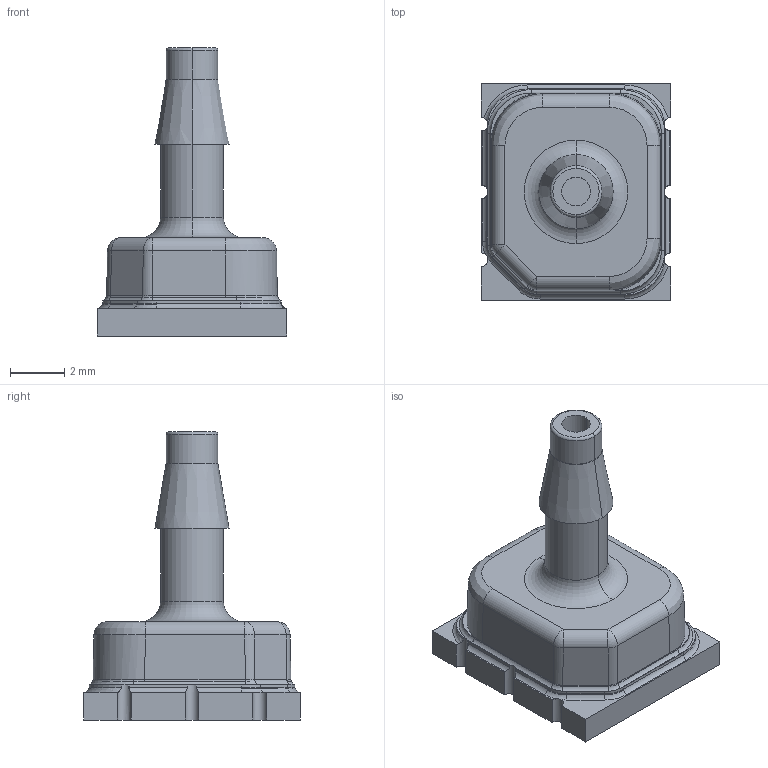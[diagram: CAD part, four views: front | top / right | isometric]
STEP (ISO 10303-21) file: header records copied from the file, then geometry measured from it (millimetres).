
FILE_DESCRIPTION((''),'2;1');
FILE_NAME('32303387_DRY','2015-04-29T',('H116907'),(''),'PRO/ENGINEER BY PARAMETRIC TECHNOLOGY CORPORATION, 2013410','PRO/ENGINEER BY PARAMETRIC TECHNOLOGY CORPORATION, 2013410','');
FILE_SCHEMA(('CONFIG_CONTROL_DESIGN'));
Length unit declared in the file: millimetre
Products named in the file (1): 32303387_DRY
Bounding box: 7 x 8 x 10.63 mm (x, y, z)
Volume: 194.4 mm3; surface area: 254.1 mm2
Topology: 1 solids, 1 shells, 129 faces, 313 edges, 190 vertices
Faces by surface type: plane 52, cylinder 51, torus 19, bspline 3, sphere 2, cone 2
Entity records: 4199 total; most frequent: CARTESIAN_POINT 1110, DIRECTION 670, ORIENTED_EDGE 626, EDGE_CURVE 313, AXIS2_PLACEMENT_3D 260, VERTEX_POINT 190, VECTOR 150, LINE 150
